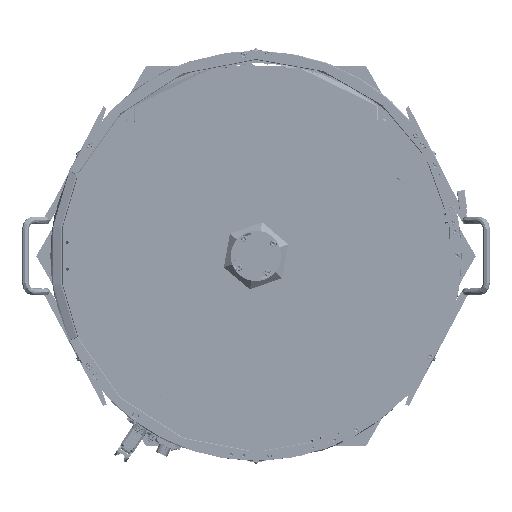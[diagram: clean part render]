
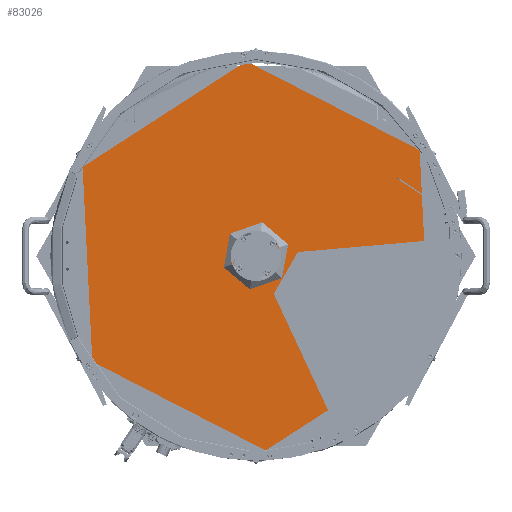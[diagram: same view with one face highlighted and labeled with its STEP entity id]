
A CAD part, top view. The second image highlights one B-rep face of the part: STEP entity #83026.
In plain terms, the highlighted planar face has unit normal (0, 0, 1) as drawn and (0, 0, -1) by its records, which use the part's own axes.
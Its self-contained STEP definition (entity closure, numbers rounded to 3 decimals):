
#81908 = FACE_BOUND ( 'NONE', #531692, .T. ) ;
#83026 = ADVANCED_FACE ( 'NONE', ( #546702, #81908 ), #127496, .F. ) ;
#87907 = CARTESIAN_POINT ( 'NONE',  ( 0., 0., 0. ) ) ;
#88584 = CARTESIAN_POINT ( 'NONE',  ( 0., 0., 0. ) ) ;
#104370 = CARTESIAN_POINT ( 'NONE',  ( -328., 0., 0. ) ) ;
#105976 = DIRECTION ( 'NONE',  ( 1., 0., 0. ) ) ;
#126395 = DIRECTION ( 'NONE',  ( 1., 0., 0. ) ) ;
#127496 = PLANE ( 'NONE',  #342851 ) ;
#136478 = CIRCLE ( 'NONE', #475968, 328. ) ;
#140102 = DIRECTION ( 'NONE',  ( 0., 0., 1. ) ) ;
#170628 = EDGE_CURVE ( 'NONE', #263233, #599682, #591888, .T. ) ;
#173187 = DIRECTION ( 'NONE',  ( 1., 0., 0. ) ) ;
#177569 = CIRCLE ( 'NONE', #187167, 328. ) ;
#177665 = CIRCLE ( 'NONE', #517397, 42.6 ) ;
#181870 = EDGE_CURVE ( 'NONE', #219822, #259717, #136478, .T. ) ;
#187167 = AXIS2_PLACEMENT_3D ( 'NONE', #245649, #564902, #105976 ) ;
#218807 = DIRECTION ( 'NONE',  ( 0., 0., 1. ) ) ;
#219822 = VERTEX_POINT ( 'NONE', #507256 ) ;
#245649 = CARTESIAN_POINT ( 'NONE',  ( 0., 0., 0. ) ) ;
#248021 = EDGE_CURVE ( 'NONE', #259717, #219822, #177569, .T. ) ;
#259717 = VERTEX_POINT ( 'NONE', #104370 ) ;
#263233 = VERTEX_POINT ( 'NONE', #278421 ) ;
#278421 = CARTESIAN_POINT ( 'NONE',  ( 42.6, 0., 0. ) ) ;
#301377 = EDGE_CURVE ( 'NONE', #599682, #263233, #177665, .T. ) ;
#302735 = DIRECTION ( 'NONE',  ( 0., 0., 1. ) ) ;
#324057 = ORIENTED_EDGE ( 'NONE', *, *, #170628, .T. ) ;
#342851 = AXIS2_PLACEMENT_3D ( 'NONE', #87907, #507140, #452424 ) ;
#354209 = CARTESIAN_POINT ( 'NONE',  ( 0., 0., 0. ) ) ;
#370970 = DIRECTION ( 'NONE',  ( 1., 0., 0. ) ) ;
#392595 = ORIENTED_EDGE ( 'NONE', *, *, #248021, .F. ) ;
#426984 = AXIS2_PLACEMENT_3D ( 'NONE', #354209, #302735, #126395 ) ;
#431940 = CARTESIAN_POINT ( 'NONE',  ( -42.6, 0., 0. ) ) ;
#446569 = ORIENTED_EDGE ( 'NONE', *, *, #181870, .F. ) ;
#447936 = EDGE_LOOP ( 'NONE', ( #392595, #446569 ) ) ;
#449645 = CARTESIAN_POINT ( 'NONE',  ( 0., 0., 0. ) ) ;
#452424 = DIRECTION ( 'NONE',  ( 1., 0., 0. ) ) ;
#475968 = AXIS2_PLACEMENT_3D ( 'NONE', #449645, #218807, #173187 ) ;
#507140 = DIRECTION ( 'NONE',  ( 0., 0., 1. ) ) ;
#507256 = CARTESIAN_POINT ( 'NONE',  ( 328., 0., 0. ) ) ;
#517397 = AXIS2_PLACEMENT_3D ( 'NONE', #88584, #140102, #370970 ) ;
#531692 = EDGE_LOOP ( 'NONE', ( #545858, #324057 ) ) ;
#545858 = ORIENTED_EDGE ( 'NONE', *, *, #301377, .T. ) ;
#546702 = FACE_OUTER_BOUND ( 'NONE', #447936, .T. ) ;
#564902 = DIRECTION ( 'NONE',  ( 0., 0., 1. ) ) ;
#591888 = CIRCLE ( 'NONE', #426984, 42.6 ) ;
#599682 = VERTEX_POINT ( 'NONE', #431940 ) ;
